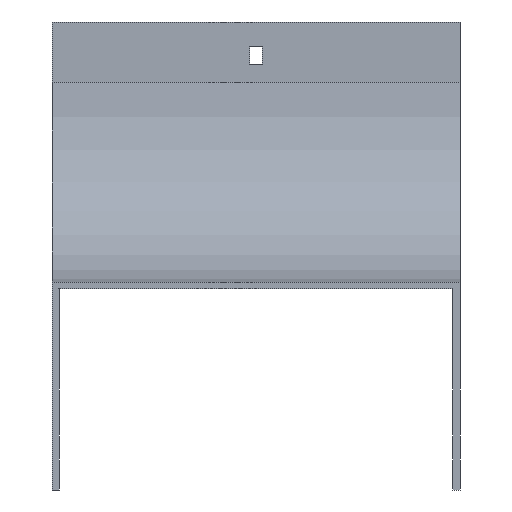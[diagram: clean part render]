
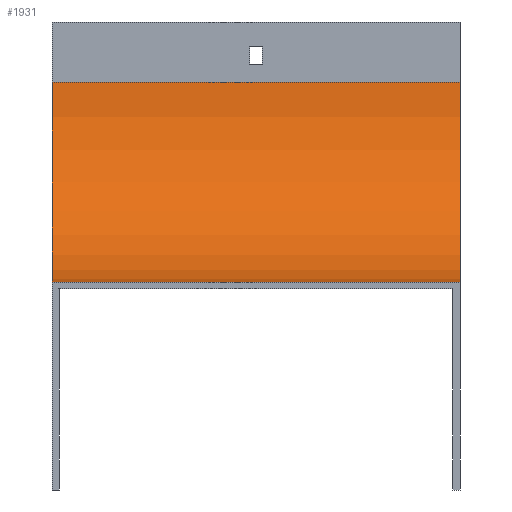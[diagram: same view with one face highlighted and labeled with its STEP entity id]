
A CAD part, front view. The second image highlights one B-rep face of the part: STEP entity #1931.
In plain terms, the highlighted cylindrical face has radius 100 mm (diameter 200 mm), a partial arc.
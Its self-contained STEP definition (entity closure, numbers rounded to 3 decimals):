
#9 = LINE ( 'NONE', #645, #1402 ) ;
#58 = AXIS2_PLACEMENT_3D ( 'NONE', #1592, #699, #83 ) ;
#83 = DIRECTION ( 'NONE',  ( 0., 0., 1. ) ) ;
#128 = DIRECTION ( 'NONE',  ( 0., 0., 1. ) ) ;
#145 = DIRECTION ( 'NONE',  ( -1., 0., 0. ) ) ;
#212 = EDGE_CURVE ( 'NONE', #1875, #1260, #957, .T. ) ;
#216 = CARTESIAN_POINT ( 'NONE',  ( 102., -100., -30. ) ) ;
#354 = EDGE_CURVE ( 'NONE', #392, #638, #1758, .T. ) ;
#392 = VERTEX_POINT ( 'NONE', #1013 ) ;
#459 = EDGE_LOOP ( 'NONE', ( #1432, #1808, #1535, #800 ) ) ;
#527 = CARTESIAN_POINT ( 'NONE',  ( 102., 0., -30. ) ) ;
#638 = VERTEX_POINT ( 'NONE', #923 ) ;
#645 = CARTESIAN_POINT ( 'NONE',  ( 102., -100., -130. ) ) ;
#699 = DIRECTION ( 'NONE',  ( -1., 0., 0. ) ) ;
#800 = ORIENTED_EDGE ( 'NONE', *, *, #1564, .T. ) ;
#812 = DIRECTION ( 'NONE',  ( -1., 0., 0. ) ) ;
#874 = VECTOR ( 'NONE', #1141, 1000. ) ;
#923 = CARTESIAN_POINT ( 'NONE',  ( -102., -100., -130. ) ) ;
#957 = CIRCLE ( 'NONE', #1421, 100. ) ;
#1013 = CARTESIAN_POINT ( 'NONE',  ( -102., 0., -30. ) ) ;
#1120 = CARTESIAN_POINT ( 'NONE',  ( 102., 0., -30. ) ) ;
#1125 = DIRECTION ( 'NONE',  ( 0., 0., 1. ) ) ;
#1141 = DIRECTION ( 'NONE',  ( -1., 0., 0. ) ) ;
#1197 = CYLINDRICAL_SURFACE ( 'NONE', #1327, 100. ) ;
#1260 = VERTEX_POINT ( 'NONE', #1650 ) ;
#1281 = LINE ( 'NONE', #527, #874 ) ;
#1315 = EDGE_CURVE ( 'NONE', #1260, #638, #9, .T. ) ;
#1327 = AXIS2_PLACEMENT_3D ( 'NONE', #1500, #145, #128 ) ;
#1402 = VECTOR ( 'NONE', #812, 1000. ) ;
#1421 = AXIS2_PLACEMENT_3D ( 'NONE', #216, #1855, #1125 ) ;
#1432 = ORIENTED_EDGE ( 'NONE', *, *, #354, .T. ) ;
#1481 = FACE_OUTER_BOUND ( 'NONE', #459, .T. ) ;
#1500 = CARTESIAN_POINT ( 'NONE',  ( 102., -100., -30. ) ) ;
#1535 = ORIENTED_EDGE ( 'NONE', *, *, #212, .F. ) ;
#1564 = EDGE_CURVE ( 'NONE', #1875, #392, #1281, .T. ) ;
#1592 = CARTESIAN_POINT ( 'NONE',  ( -102., -100., -30. ) ) ;
#1650 = CARTESIAN_POINT ( 'NONE',  ( 102., -100., -130. ) ) ;
#1758 = CIRCLE ( 'NONE', #58, 100. ) ;
#1808 = ORIENTED_EDGE ( 'NONE', *, *, #1315, .F. ) ;
#1855 = DIRECTION ( 'NONE',  ( -1., 0., 0. ) ) ;
#1875 = VERTEX_POINT ( 'NONE', #1120 ) ;
#1931 = ADVANCED_FACE ( 'NONE', ( #1481 ), #1197, .F. ) ;
